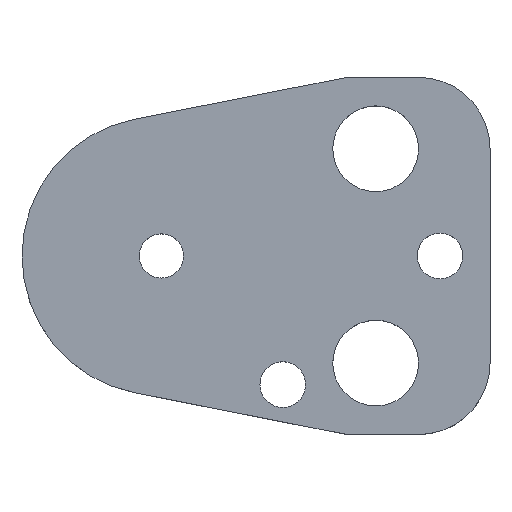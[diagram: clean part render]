
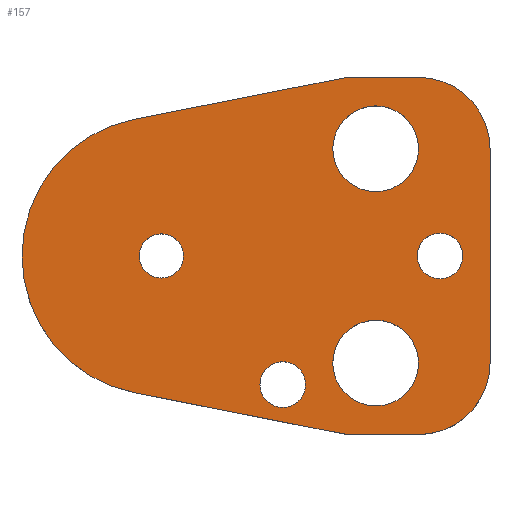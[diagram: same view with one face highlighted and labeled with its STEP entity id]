
A CAD part, top view. The second image highlights one B-rep face of the part: STEP entity #157.
In plain terms, the highlighted planar face has unit normal (0, 0, 1).
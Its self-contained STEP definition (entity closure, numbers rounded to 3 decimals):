
#103=FACE_BOUND('',#207,.T.);
#104=FACE_BOUND('',#208,.T.);
#105=FACE_BOUND('',#209,.T.);
#106=FACE_BOUND('',#210,.T.);
#107=FACE_BOUND('',#211,.T.);
#108=FACE_BOUND('',#212,.T.);
#122=CIRCLE('',#480,10.);
#124=CIRCLE('',#484,10.);
#127=CIRCLE('',#490,19.5);
#138=CIRCLE('',#503,3.2);
#139=CIRCLE('',#504,3.2);
#140=CIRCLE('',#505,6.);
#141=CIRCLE('',#506,6.);
#142=CIRCLE('',#507,6.);
#143=CIRCLE('',#508,6.);
#144=CIRCLE('',#509,3.2);
#145=CIRCLE('',#510,3.2);
#146=CIRCLE('',#511,3.1);
#147=CIRCLE('',#512,3.1);
#157=ADVANCED_FACE('',(#103,#104,#105,#106,#107,#108),#174,.T.);
#174=PLANE('',#513);
#207=EDGE_LOOP('',(#273,#274,#275,#276,#277,#278,#279,#280));
#208=EDGE_LOOP('',(#281,#282));
#209=EDGE_LOOP('',(#283,#284));
#210=EDGE_LOOP('',(#285,#286));
#211=EDGE_LOOP('',(#287,#288));
#212=EDGE_LOOP('',(#289,#290));
#273=ORIENTED_EDGE('',*,*,#368,.T.);
#274=ORIENTED_EDGE('',*,*,#372,.T.);
#275=ORIENTED_EDGE('',*,*,#375,.T.);
#276=ORIENTED_EDGE('',*,*,#378,.T.);
#277=ORIENTED_EDGE('',*,*,#381,.T.);
#278=ORIENTED_EDGE('',*,*,#384,.T.);
#279=ORIENTED_EDGE('',*,*,#387,.T.);
#280=ORIENTED_EDGE('',*,*,#390,.T.);
#281=ORIENTED_EDGE('',*,*,#401,.T.);
#282=ORIENTED_EDGE('',*,*,#402,.T.);
#283=ORIENTED_EDGE('',*,*,#403,.T.);
#284=ORIENTED_EDGE('',*,*,#404,.T.);
#285=ORIENTED_EDGE('',*,*,#405,.T.);
#286=ORIENTED_EDGE('',*,*,#406,.T.);
#287=ORIENTED_EDGE('',*,*,#407,.T.);
#288=ORIENTED_EDGE('',*,*,#408,.T.);
#289=ORIENTED_EDGE('',*,*,#409,.T.);
#290=ORIENTED_EDGE('',*,*,#410,.T.);
#332=VERTEX_POINT('',#649);
#333=VERTEX_POINT('',#651);
#336=VERTEX_POINT('',#658);
#338=VERTEX_POINT('',#664);
#340=VERTEX_POINT('',#670);
#342=VERTEX_POINT('',#676);
#344=VERTEX_POINT('',#682);
#346=VERTEX_POINT('',#688);
#357=VERTEX_POINT('',#717);
#358=VERTEX_POINT('',#718);
#359=VERTEX_POINT('',#721);
#360=VERTEX_POINT('',#722);
#361=VERTEX_POINT('',#725);
#362=VERTEX_POINT('',#726);
#363=VERTEX_POINT('',#729);
#364=VERTEX_POINT('',#730);
#365=VERTEX_POINT('',#733);
#366=VERTEX_POINT('',#734);
#368=EDGE_CURVE('',#333,#332,#422,.T.);
#372=EDGE_CURVE('',#332,#336,#426,.T.);
#375=EDGE_CURVE('',#336,#338,#122,.T.);
#378=EDGE_CURVE('',#338,#340,#430,.T.);
#381=EDGE_CURVE('',#340,#342,#124,.T.);
#384=EDGE_CURVE('',#342,#344,#434,.T.);
#387=EDGE_CURVE('',#344,#346,#437,.T.);
#390=EDGE_CURVE('',#346,#333,#127,.T.);
#401=EDGE_CURVE('',#357,#358,#138,.T.);
#402=EDGE_CURVE('',#358,#357,#139,.T.);
#403=EDGE_CURVE('',#359,#360,#140,.T.);
#404=EDGE_CURVE('',#360,#359,#141,.T.);
#405=EDGE_CURVE('',#361,#362,#142,.T.);
#406=EDGE_CURVE('',#362,#361,#143,.T.);
#407=EDGE_CURVE('',#363,#364,#144,.T.);
#408=EDGE_CURVE('',#364,#363,#145,.T.);
#409=EDGE_CURVE('',#365,#366,#146,.T.);
#410=EDGE_CURVE('',#366,#365,#147,.T.);
#422=LINE('',#650,#450);
#426=LINE('',#659,#454);
#430=LINE('',#671,#458);
#434=LINE('',#683,#462);
#437=LINE('',#689,#465);
#450=VECTOR('',#527,1.);
#454=VECTOR('',#533,1.);
#458=VECTOR('',#545,1.);
#462=VECTOR('',#557,1.);
#465=VECTOR('',#562,1.);
#480=AXIS2_PLACEMENT_3D('',#665,#538,#539);
#484=AXIS2_PLACEMENT_3D('',#677,#550,#551);
#490=AXIS2_PLACEMENT_3D('',#693,#568,#569);
#503=AXIS2_PLACEMENT_3D('',#716,#594,#595);
#504=AXIS2_PLACEMENT_3D('',#719,#596,#597);
#505=AXIS2_PLACEMENT_3D('',#720,#598,#599);
#506=AXIS2_PLACEMENT_3D('',#723,#600,#601);
#507=AXIS2_PLACEMENT_3D('',#724,#602,#603);
#508=AXIS2_PLACEMENT_3D('',#727,#604,#605);
#509=AXIS2_PLACEMENT_3D('',#728,#606,#607);
#510=AXIS2_PLACEMENT_3D('',#731,#608,#609);
#511=AXIS2_PLACEMENT_3D('',#732,#610,#611);
#512=AXIS2_PLACEMENT_3D('',#735,#612,#613);
#513=AXIS2_PLACEMENT_3D('',#736,#614,#615);
#527=DIRECTION('',(0.981,-0.193,0.));
#533=DIRECTION('',(1.,0.,0.));
#538=DIRECTION('',(0.,0.,1.));
#539=DIRECTION('',(-0.707,0.707,0.));
#545=DIRECTION('',(0.,1.,0.));
#550=DIRECTION('',(0.,0.,1.));
#551=DIRECTION('',(-0.707,-0.707,0.));
#557=DIRECTION('',(-1.,0.,0.));
#562=DIRECTION('',(-0.981,-0.193,0.));
#568=DIRECTION('',(0.,0.,1.));
#569=DIRECTION('',(1.,0.,0.));
#594=DIRECTION('',(0.,0.,-1.));
#595=DIRECTION('',(-1.,0.,0.));
#596=DIRECTION('',(0.,0.,-1.));
#597=DIRECTION('',(1.,0.,0.));
#598=DIRECTION('',(0.,0.,-1.));
#599=DIRECTION('',(-1.,0.,0.));
#600=DIRECTION('',(0.,0.,-1.));
#601=DIRECTION('',(1.,0.,0.));
#602=DIRECTION('',(0.,0.,-1.));
#603=DIRECTION('',(-1.,0.,0.));
#604=DIRECTION('',(0.,0.,-1.));
#605=DIRECTION('',(1.,0.,0.));
#606=DIRECTION('',(0.,0.,-1.));
#607=DIRECTION('',(-1.,0.,0.));
#608=DIRECTION('',(0.,0.,-1.));
#609=DIRECTION('',(1.,0.,0.));
#610=DIRECTION('',(0.,0.,-1.));
#611=DIRECTION('',(-1.,0.,0.));
#612=DIRECTION('',(0.,0.,-1.));
#613=DIRECTION('',(1.,0.,0.));
#614=DIRECTION('',(0.,0.,1.));
#615=DIRECTION('',(0.981,-0.193,0.));
#649=CARTESIAN_POINT('',(26.,-25.,9.));
#650=CARTESIAN_POINT('',(26.,-25.,9.));
#651=CARTESIAN_POINT('',(-3.771,-19.132,9.));
#658=CARTESIAN_POINT('',(36.,-25.,9.));
#659=CARTESIAN_POINT('',(26.,-25.,9.));
#664=CARTESIAN_POINT('',(46.,-15.,9.));
#665=CARTESIAN_POINT('',(36.,-15.,9.));
#670=CARTESIAN_POINT('',(46.,15.,9.));
#671=CARTESIAN_POINT('',(46.,15.,9.));
#676=CARTESIAN_POINT('',(36.,25.,9.));
#677=CARTESIAN_POINT('',(36.,15.,9.));
#682=CARTESIAN_POINT('',(26.,25.,9.));
#683=CARTESIAN_POINT('',(26.,25.,9.));
#688=CARTESIAN_POINT('',(-3.771,19.132,9.));
#689=CARTESIAN_POINT('',(26.,25.,9.));
#693=CARTESIAN_POINT('',(0.,0.,9.));
#716=CARTESIAN_POINT('',(39.,0.,9.));
#717=CARTESIAN_POINT('',(39.,3.2,9.));
#718=CARTESIAN_POINT('',(39.,-3.2,9.));
#719=CARTESIAN_POINT('',(39.,0.,9.));
#720=CARTESIAN_POINT('',(30.,15.,9.));
#721=CARTESIAN_POINT('',(30.,21.,9.));
#722=CARTESIAN_POINT('',(30.,9.,9.));
#723=CARTESIAN_POINT('',(30.,15.,9.));
#724=CARTESIAN_POINT('',(30.,-15.,9.));
#725=CARTESIAN_POINT('',(30.,-9.,9.));
#726=CARTESIAN_POINT('',(30.,-21.,9.));
#727=CARTESIAN_POINT('',(30.,-15.,9.));
#728=CARTESIAN_POINT('',(17.,-18.,9.));
#729=CARTESIAN_POINT('',(17.,-14.8,9.));
#730=CARTESIAN_POINT('',(17.,-21.2,9.));
#731=CARTESIAN_POINT('',(17.,-18.,9.));
#732=CARTESIAN_POINT('',(0.,0.,9.));
#733=CARTESIAN_POINT('',(0.,3.1,9.));
#734=CARTESIAN_POINT('',(0.,-3.1,9.));
#735=CARTESIAN_POINT('',(0.,0.,9.));
#736=CARTESIAN_POINT('',(-3.771,-19.132,9.));
